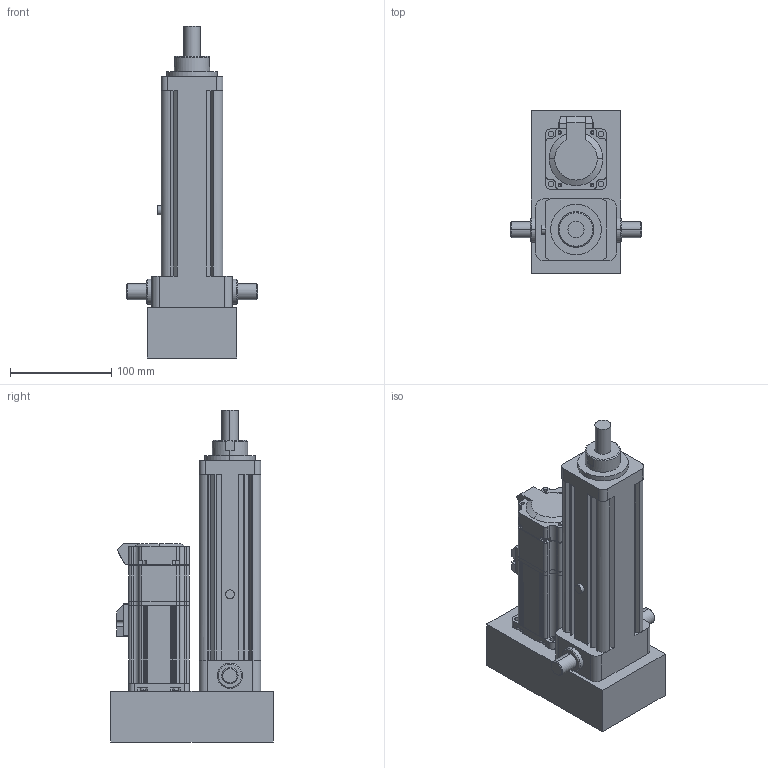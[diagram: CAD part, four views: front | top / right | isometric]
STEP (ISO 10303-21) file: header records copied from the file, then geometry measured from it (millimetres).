
FILE_DESCRIPTION (( 'STEP AP203' ), '1' );
FILE_NAME ('S2殏殿嫉粣假蚾.STEP', '2024-05-27T05:10:54', ( '' ), ( '' ), 'SwSTEP 2.0', 'SolidWorks 2018', '' );
FILE_SCHEMA (( 'CONFIG_CONTROL_DESIGN' ));
Length unit declared in the file: millimetre
Products named in the file (3): S2殏殿嫉粣假蚾; S2殏殿嫉粣; 陓豎400W 湍价陬
Assembly tree (2 placements, depth 2):
  S2殏殿嫉粣假蚾
    S2殏殿嫉粣
    陓豎400W 湍价陬
Bounding box: 130 x 161 x 328 mm (x, y, z)
Volume: 1156475.5 mm3; surface area: 260853.9 mm2
Topology: 1 solids, 29 shells, 735 faces, 2101 edges, 1431 vertices
Faces by surface type: plane 357, cylinder 351, cone 19, torus 8
Entity records: 24457 total; most frequent: DIRECTION 4433, CARTESIAN_POINT 4389, ORIENTED_EDGE 3706, EDGE_CURVE 2101, AXIS2_PLACEMENT_3D 1611, VERTEX_POINT 1431, VECTOR 1211, LINE 1211
